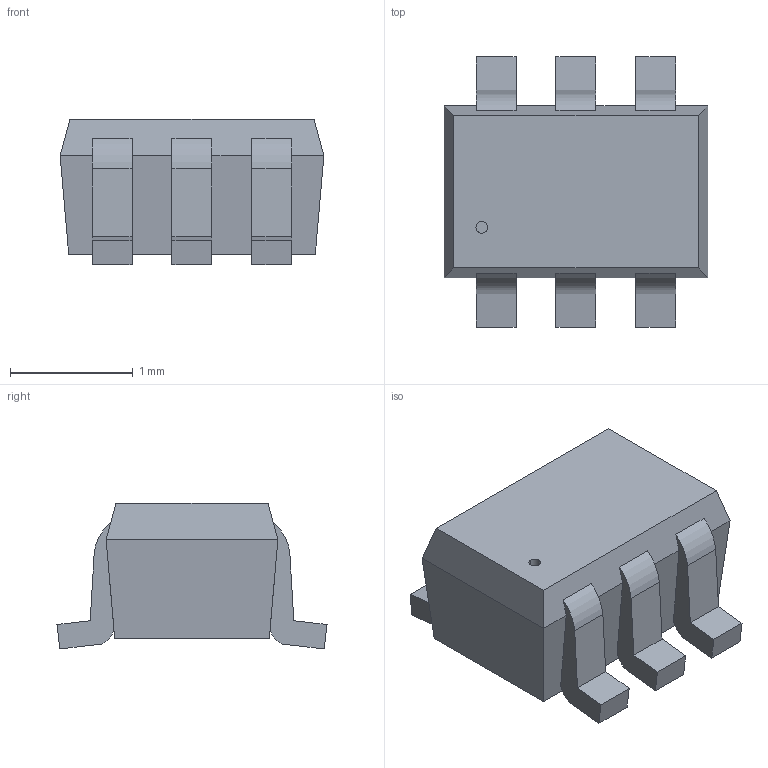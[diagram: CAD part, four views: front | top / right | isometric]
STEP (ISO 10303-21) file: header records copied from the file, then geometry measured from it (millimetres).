
FILE_DESCRIPTION(('Open CASCADE Model'),'2;1');
FILE_NAME('Open CASCADE Shape Model','2026-10-25T11:09:15',('Author'),( 'Open CASCADE'),'Open CASCADE STEP processor 8.0','Open CASCADE 8.0' ,'Unknown');
FILE_SCHEMA(('AUTOMOTIVE_DESIGN { 1 0 10303 214 1 1 1 1 }'));
Length unit declared in the file: millimetre
Products named in the file (1): Open CASCADE STEP translator 8.0 69
Bounding box: 2.15 x 2.2 x 1.19 mm (x, y, z)
Volume: 3.4 mm3; surface area: 16.6 mm2
Topology: 1 solids, 1 shells, 61 faces, 170 edges, 112 vertices
Faces by surface type: plane 47, cylinder 14
Entity records: 4196 total; most frequent: CARTESIAN_POINT 756, DIRECTION 650, LINE 454, VECTOR 454, ORIENTED_EDGE 340, PCURVE 340, DEFINITIONAL_REPRESENTATION 340, EDGE_CURVE 170
